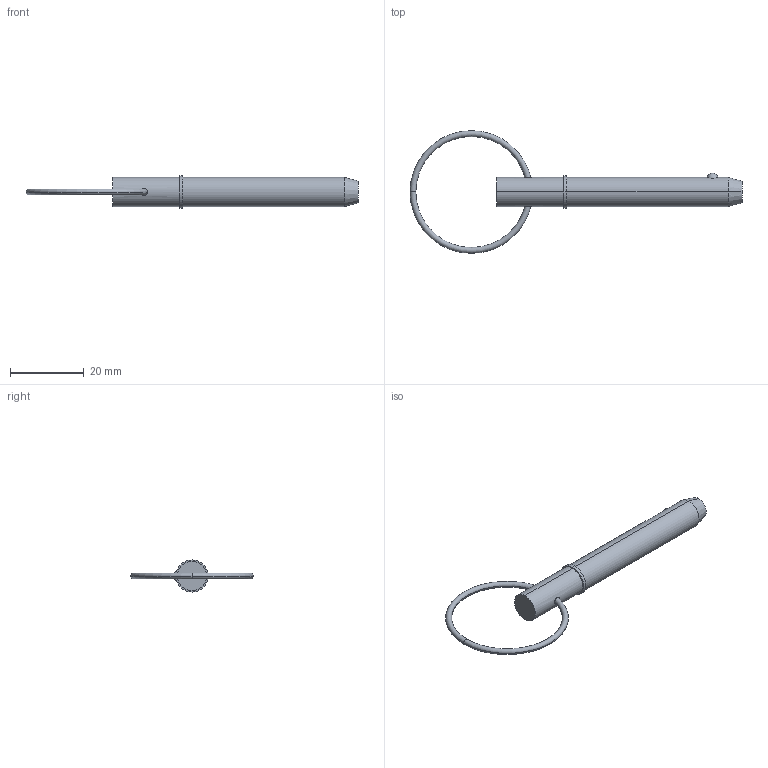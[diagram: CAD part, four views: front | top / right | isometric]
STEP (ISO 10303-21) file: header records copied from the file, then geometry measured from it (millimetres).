
FILE_DESCRIPTION (( 'STEP AP203' ), '1' );
FILE_NAME ('33014.W3115.step', '2024-11-04T08:24:42', ( '' ), ( '' ), 'SwSTEP 2.0', 'SolidWorks 2019', '' );
FILE_SCHEMA (( 'CONFIG_CONTROL_DESIGN' ));
Length unit declared in the file: millimetre
Products named in the file (3): Part2_33014.W3115; 33014.W3115; Part1_33014.W3115
Assembly tree (2 placements, depth 2):
  33014.W3115
    Part1_33014.W3115
    Part2_33014.W3115
Bounding box: 90.22 x 33.34 x 8.73 mm (x, y, z)
Volume: 3446.1 mm3; surface area: 2300.4 mm2
Topology: 2 solids, 2 shells, 22 faces, 43 edges, 26 vertices
Faces by surface type: torus 8, cylinder 6, plane 4, sphere 2, cone 2
Entity records: 989 total; most frequent: CARTESIAN_POINT 212, DIRECTION 120, ORIENTED_EDGE 86, AXIS2_PLACEMENT_3D 56, EDGE_CURVE 43, CIRCLE 29, EDGE_LOOP 27, VERTEX_POINT 26
